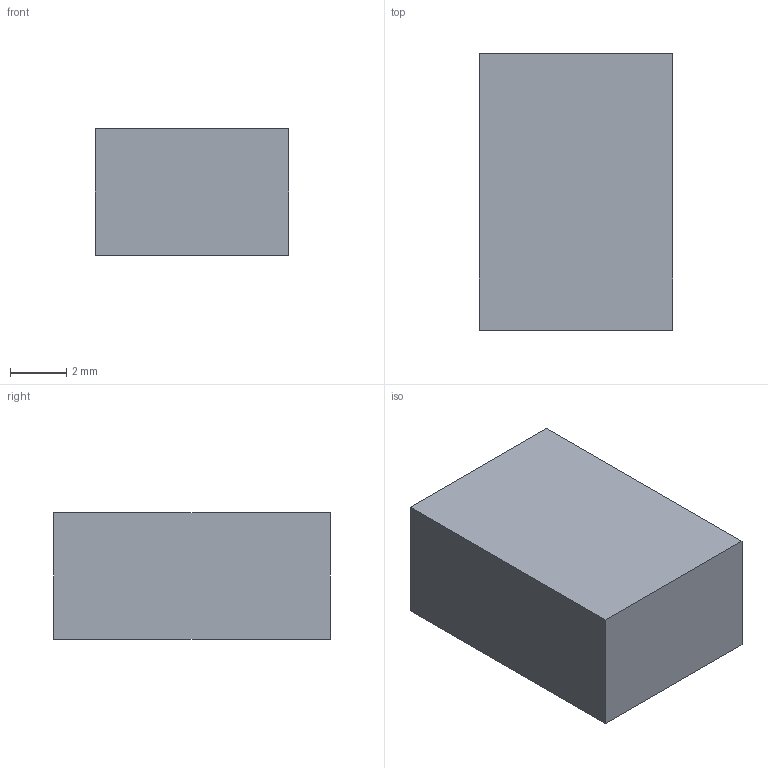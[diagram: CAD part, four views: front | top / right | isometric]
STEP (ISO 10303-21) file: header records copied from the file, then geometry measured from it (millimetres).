
FILE_DESCRIPTION(('Open CASCADE Model'),'2;1');
FILE_NAME('Open CASCADE Shape Model','2026-09-16T18:45:42',('Author'),( 'Open CASCADE'),'Open CASCADE STEP processor 7.7','Open CASCADE 7.7' ,'Unknown');
FILE_SCHEMA(('AUTOMOTIVE_DESIGN { 1 0 10303 214 1 1 1 1 }'));
Length unit declared in the file: millimetre
Products named in the file (1): Open CASCADE STEP translator 7.7 1
Bounding box: 6.85 x 9.8 x 4.5 mm (x, y, z)
Volume: 302.1 mm3; surface area: 284.1 mm2
Topology: 1 solids, 1 shells, 6 faces, 12 edges, 8 vertices
Faces by surface type: plane 6
Entity records: 322 total; most frequent: CARTESIAN_POINT 51, DIRECTION 50, LINE 36, VECTOR 36, ORIENTED_EDGE 24, PCURVE 24, DEFINITIONAL_REPRESENTATION 24, EDGE_CURVE 12
